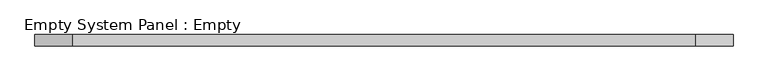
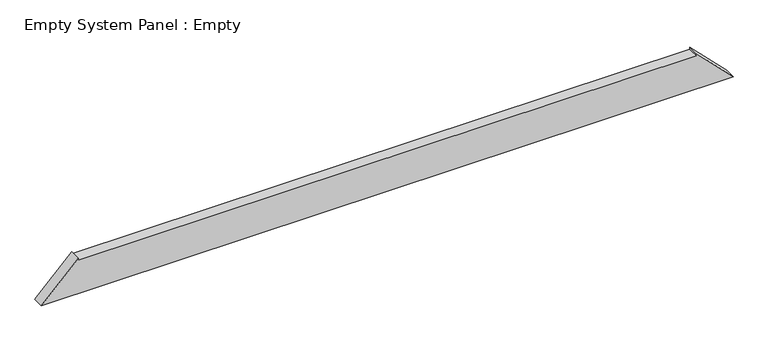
"""IFC4 building model written with IfcOpenShell, lengths in millimetres: plate geometry, Empty System Panel : Empty."""

from ifc_helpers import new_model, si_unit, frame, origin, place, context, project, spatial, polyline, outline, extrude, source, transform, mapped, element, save


def empty_system_panel_empty_6b93b557(model_context):
    return source(origin(), model_context, "Body", "SweptSolid", [
        extrude(outline(polyline([(0.0, -3064.4807771), (0.0, 3064.4807771), (330.0, 2738.1317806), (310.0, 2738.1317806), (310.0, -2738.1317806), (330.0, -2738.1317806), (0.0, -3064.4807771)])), frame((0.0, -50.0, 0.0), z_axis=(0.0, 1.0, 0.0), x_axis=(0.0, 0.0, 1.0)), (0.0, 0.0, 1.0), 100.0),
    ])


if __name__ == "__main__":
    model = new_model("IFC4")
    model_context = context("Model", 3, world=origin())
    ifc_project = project(units=[si_unit("LENGTHUNIT", "METRE", prefix="MILLI")], contexts=[model_context])
    site = spatial("IfcSite", under=ifc_project)
    building = spatial("IfcBuilding", under=site)
    placement = place(None, origin())
    empty_system_panel_empty_shape = empty_system_panel_empty_6b93b557(model_context)
    element("IfcPlate", 1, ObjectType="Empty System Panel : Empty", at=placement, inside=building, context=model_context, shape_type="MappedRepresentation", body=[
        mapped(empty_system_panel_empty_shape, transform((0.0, 0.0, 0.0), x_axis=(1.0, 0.0, 0.0), y_axis=(0.0, 1.0, 0.0), z_axis=(0.0, 0.0, 1.0))),
    ])
    save(model, "model.ifc")
